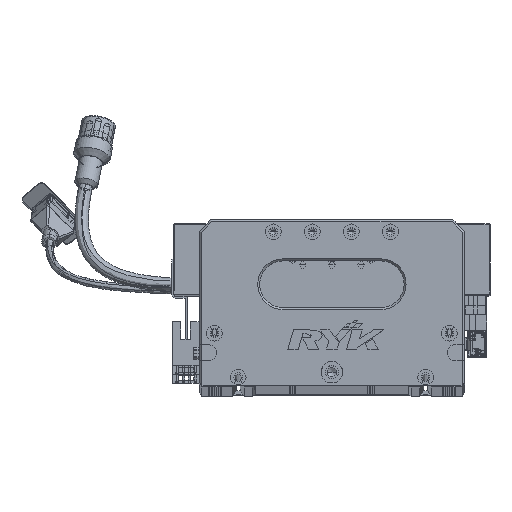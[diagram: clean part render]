
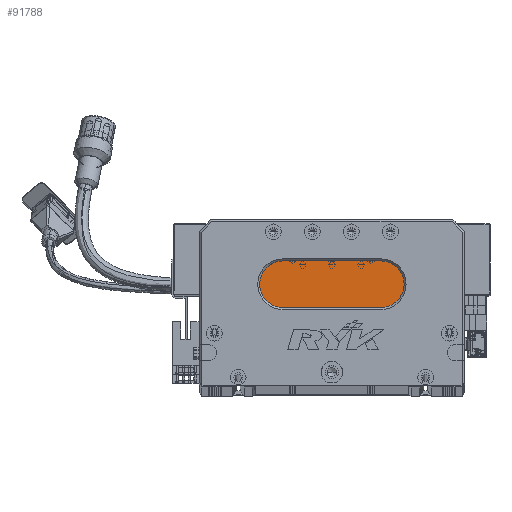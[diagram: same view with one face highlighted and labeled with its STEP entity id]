
A CAD part, top view. The second image highlights one B-rep face of the part: STEP entity #91788.
In plain terms, the highlighted planar face has unit normal (0, 0, 1) as drawn and (0, 0, -1) by its records, which use the part's own axes.
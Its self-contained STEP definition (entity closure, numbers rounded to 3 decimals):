
#711 = EDGE_LOOP ( 'NONE', ( #32885, #36643, #24787, #40647, #18671 ) ) ;
#1101 = DIRECTION ( 'NONE',  ( -1., 0., 0. ) ) ;
#2010 = FACE_OUTER_BOUND ( 'NONE', #711, .T. ) ;
#3648 = AXIS2_PLACEMENT_3D ( 'NONE', #101380, #102238, #39915 ) ;
#4828 = EDGE_CURVE ( 'NONE', #119482, #77582, #84682, .T. ) ;
#7735 = EDGE_CURVE ( 'NONE', #12657, #119482, #25622, .T. ) ;
#8095 = EDGE_CURVE ( 'NONE', #77582, #70773, #126463, .T. ) ;
#10070 = CARTESIAN_POINT ( 'NONE',  ( 93., 40., 13. ) ) ;
#12657 = VERTEX_POINT ( 'NONE', #67903 ) ;
#12953 = DIRECTION ( 'NONE',  ( 0., 0., -1. ) ) ;
#18671 = ORIENTED_EDGE ( 'NONE', *, *, #75271, .T. ) ;
#24787 = ORIENTED_EDGE ( 'NONE', *, *, #8095, .T. ) ;
#25622 = CIRCLE ( 'NONE', #125504, 12. ) ;
#27149 = CARTESIAN_POINT ( 'NONE',  ( 93., 52., 13. ) ) ;
#32885 = ORIENTED_EDGE ( 'NONE', *, *, #7735, .T. ) ;
#33150 = DIRECTION ( 'NONE',  ( 1., 0., 0. ) ) ;
#35068 = CARTESIAN_POINT ( 'NONE',  ( 31., 52., 13. ) ) ;
#36643 = ORIENTED_EDGE ( 'NONE', *, *, #4828, .T. ) ;
#39317 = DIRECTION ( 'NONE',  ( 0., 0., -1. ) ) ;
#39915 = DIRECTION ( 'NONE',  ( -1., 0., 0. ) ) ;
#40647 = ORIENTED_EDGE ( 'NONE', *, *, #113012, .T. ) ;
#52847 = CARTESIAN_POINT ( 'NONE',  ( 43., 52., 13. ) ) ;
#56064 = DIRECTION ( 'NONE',  ( -1., 0., 0. ) ) ;
#64184 = DIRECTION ( 'NONE',  ( 0., 0., -1. ) ) ;
#67903 = CARTESIAN_POINT ( 'NONE',  ( 93., 64., 13. ) ) ;
#68073 = AXIS2_PLACEMENT_3D ( 'NONE', #75092, #12953, #56064 ) ;
#69194 = VERTEX_POINT ( 'NONE', #121457 ) ;
#70773 = VERTEX_POINT ( 'NONE', #35068 ) ;
#75092 = CARTESIAN_POINT ( 'NONE',  ( 43., 52., 13. ) ) ;
#75271 = EDGE_CURVE ( 'NONE', #69194, #12657, #117837, .T. ) ;
#76040 = AXIS2_PLACEMENT_3D ( 'NONE', #52847, #64184, #1101 ) ;
#77582 = VERTEX_POINT ( 'NONE', #104663 ) ;
#78725 = CIRCLE ( 'NONE', #76040, 12. ) ;
#84682 = LINE ( 'NONE', #10070, #91241 ) ;
#90157 = VECTOR ( 'NONE', #33150, 1000. ) ;
#91241 = VECTOR ( 'NONE', #103227, 1000. ) ;
#91788 = ADVANCED_FACE ( 'NONE', ( #2010 ), #112246, .T. ) ;
#93665 = CARTESIAN_POINT ( 'NONE',  ( 93., 64., 13. ) ) ;
#101380 = CARTESIAN_POINT ( 'NONE',  ( 93., 52., 13. ) ) ;
#102238 = DIRECTION ( 'NONE',  ( 0., 0., -1. ) ) ;
#103227 = DIRECTION ( 'NONE',  ( -1., 0., 0. ) ) ;
#104663 = CARTESIAN_POINT ( 'NONE',  ( 43., 40., 13. ) ) ;
#110763 = DIRECTION ( 'NONE',  ( -1., 0., 0. ) ) ;
#112246 = PLANE ( 'NONE',  #3648 ) ;
#113012 = EDGE_CURVE ( 'NONE', #70773, #69194, #78725, .T. ) ;
#117837 = LINE ( 'NONE', #93665, #90157 ) ;
#119482 = VERTEX_POINT ( 'NONE', #121242 ) ;
#121242 = CARTESIAN_POINT ( 'NONE',  ( 93., 40., 13. ) ) ;
#121457 = CARTESIAN_POINT ( 'NONE',  ( 43., 64., 13. ) ) ;
#125504 = AXIS2_PLACEMENT_3D ( 'NONE', #27149, #39317, #110763 ) ;
#126463 = CIRCLE ( 'NONE', #68073, 12. ) ;
